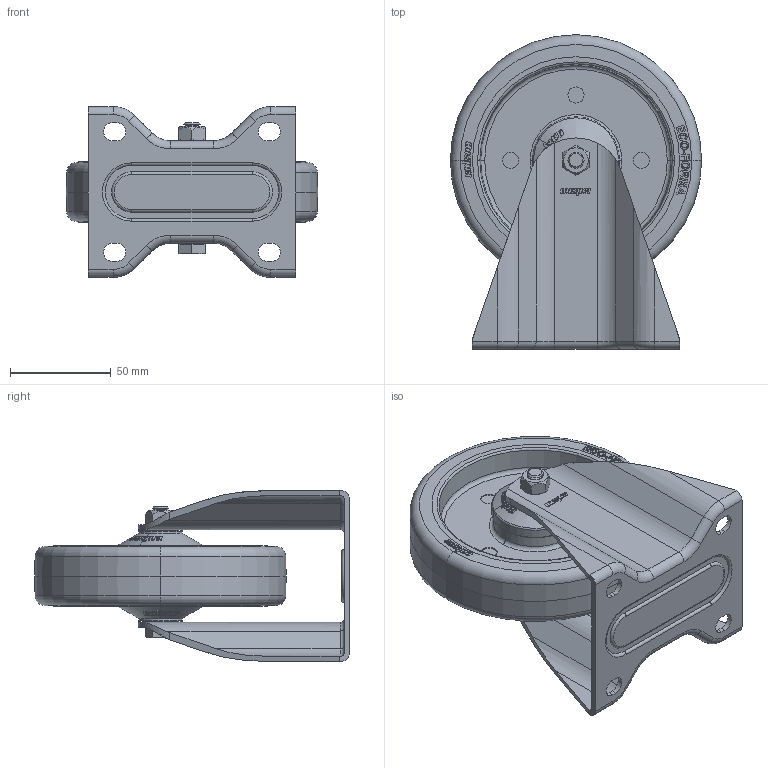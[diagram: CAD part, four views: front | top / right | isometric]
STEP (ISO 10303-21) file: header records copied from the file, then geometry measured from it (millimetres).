
FILE_DESCRIPTION (( 'STEP AP214' ), '1' );
FILE_NAME ('FPPE 1251 5000.STEP', '2018-12-14T07:44:17', ( '' ), ( '' ), 'SwSTEP 2.0', 'SolidWorks 2018', '' );
FILE_SCHEMA (( 'AUTOMOTIVE_DESIGN' ));
Length unit declared in the file: millimetre
Products named in the file (8): hex bolt gradeab_iso_ISO 4014 - M8 x 60 x 22-S; FPEW1253 CORDESSP; WPPE 1252 5100; 6201-ZZ; FPPE 1251 5000; WPPE 1252; CAP_43N45B8_GREY_P; torque nut 06_iso_ISO 7719-M8-S
Assembly tree (8 placements, depth 3):
  FPPE 1251 5000
    FPEW1253 CORDESSP
    WPPE 1252 5100
      WPPE 1252
      6201-ZZ
      CAP_43N45B8_GREY_P  x2
    hex bolt gradeab_iso_ISO 4014 - M8 x 60 x 22-S
    torque nut 06_iso_ISO 7719-M8-S
Bounding box: 125 x 156.4 x 85 mm (x, y, z)
Volume: 257957 mm3; surface area: 113094 mm2
Topology: 12 solids, 12 shells, 1951 faces, 5110 edges, 3328 vertices
Faces by surface type: plane 839, bspline 560, cone 234, cylinder 190, torus 112, sphere 16
Entity records: 77206 total; most frequent: CARTESIAN_POINT 34958, ORIENTED_EDGE 8568, DIRECTION 5998, EDGE_CURVE 4284, VERTEX_POINT 2790, VECTOR 2064, LINE 2064, AXIS2_PLACEMENT_3D 1967
